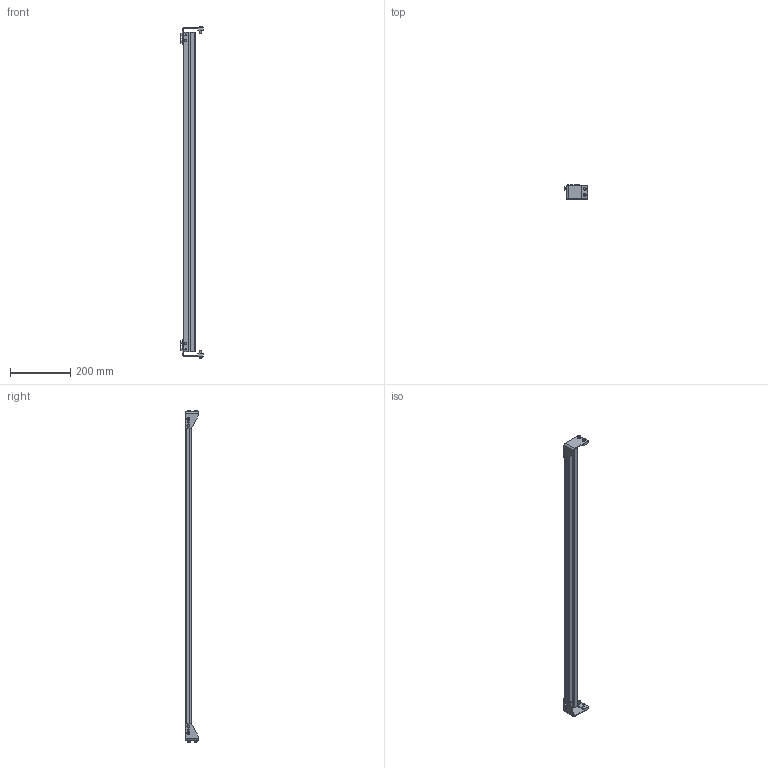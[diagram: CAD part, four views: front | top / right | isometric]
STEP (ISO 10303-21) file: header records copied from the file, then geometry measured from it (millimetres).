
FILE_DESCRIPTION((''),'2;1');
FILE_NAME('3076WWM_2_ASM','2023-03-15T',('jenni.wallner'),(''),'PRO/ENGINEER BY PARAMETRIC TECHNOLOGY CORPORATION, 2012420','PRO/ENGINEER BY PARAMETRIC TECHNOLOGY CORPORATION, 2012420','');
FILE_SCHEMA(('CONFIG_CONTROL_DESIGN'));
Length unit declared in the file: inch
Products named in the file (4): 677721_1; BRACKET_L; BRACKET_R; 3076WWM_2_ASM
Assembly tree (3 placements, depth 2):
  3076WWM_2_ASM
    677721_1
    BRACKET_L
    BRACKET_R
Bounding box: 76.2 x 46.13 x 1103.62 mm (x, y, z)
Volume: 477277.2 mm3; surface area: 286824.6 mm2
Topology: 3 solids, 3 shells, 296 faces, 730 edges, 476 vertices
Faces by surface type: plane 188, cylinder 76, cone 32
Entity records: 8834 total; most frequent: CARTESIAN_POINT 1525, DIRECTION 1512, ORIENTED_EDGE 1460, EDGE_CURVE 730, VECTOR 538, LINE 538, AXIS2_PLACEMENT_3D 487, VERTEX_POINT 476
